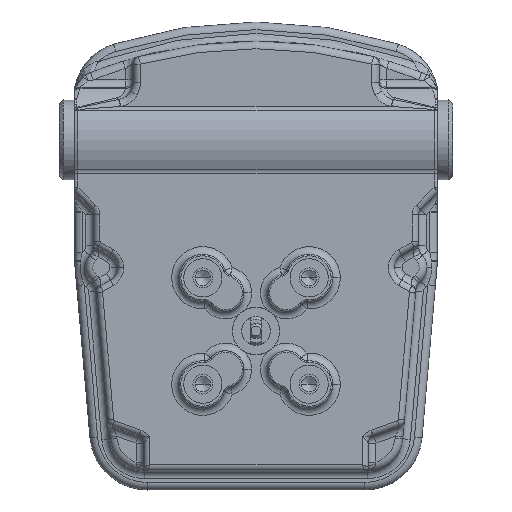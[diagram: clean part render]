
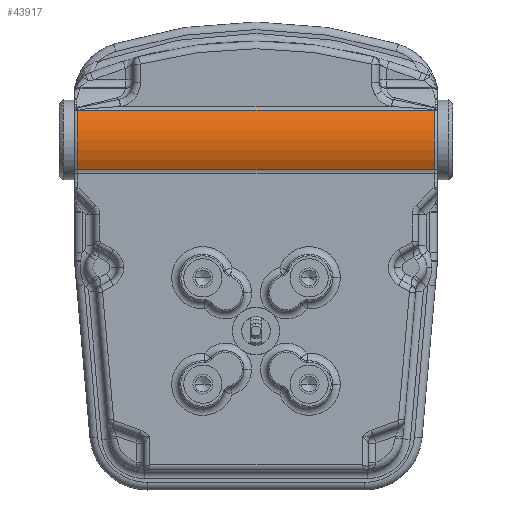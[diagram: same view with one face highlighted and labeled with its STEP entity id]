
A CAD part, front view. The second image highlights one B-rep face of the part: STEP entity #43917.
In plain terms, the highlighted cylindrical face has radius 20.637 mm (diameter 41.275 mm), a partial arc.
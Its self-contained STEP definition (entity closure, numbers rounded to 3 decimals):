
#725 = EDGE_CURVE ( 'NONE', #18810, #30631, #27193, .T. ) ;
#1852 = VERTEX_POINT ( 'NONE', #34471 ) ;
#2064 = AXIS2_PLACEMENT_3D ( 'NONE', #27051, #15968, #19676 ) ;
#8271 = CIRCLE ( 'NONE', #2064, 20.638 ) ;
#9033 = CARTESIAN_POINT ( 'NONE',  ( 82.871, 34.485, 53.573 ) ) ;
#9874 = DIRECTION ( 'NONE',  ( -1., 0., 0. ) ) ;
#12107 = ORIENTED_EDGE ( 'NONE', *, *, #26913, .T. ) ;
#14225 = VERTEX_POINT ( 'NONE', #42472 ) ;
#15968 = DIRECTION ( 'NONE',  ( 1., 0., 0. ) ) ;
#17394 = AXIS2_PLACEMENT_3D ( 'NONE', #27898, #31365, #41463 ) ;
#18810 = VERTEX_POINT ( 'NONE', #27608 ) ;
#19188 = DIRECTION ( 'NONE',  ( -1., 0., 0. ) ) ;
#19676 = DIRECTION ( 'NONE',  ( 0., 0., 1. ) ) ;
#22942 = VECTOR ( 'NONE', #19188, 1000. ) ;
#23467 = DIRECTION ( 'NONE',  ( 1., 0., 0. ) ) ;
#24222 = CARTESIAN_POINT ( 'NONE',  ( 59.182, 34.485, 53.573 ) ) ;
#25933 = EDGE_CURVE ( 'NONE', #30631, #1852, #37082, .T. ) ;
#26700 = ORIENTED_EDGE ( 'NONE', *, *, #29883, .T. ) ;
#26913 = EDGE_CURVE ( 'NONE', #1852, #14225, #27679, .T. ) ;
#27051 = CARTESIAN_POINT ( 'NONE',  ( -59.182, 52.578, 63.5 ) ) ;
#27193 = LINE ( 'NONE', #9033, #39595 ) ;
#27608 = CARTESIAN_POINT ( 'NONE',  ( -59.182, 34.485, 53.573 ) ) ;
#27679 = LINE ( 'NONE', #39657, #22942 ) ;
#27898 = CARTESIAN_POINT ( 'NONE',  ( 82.871, 52.578, 63.5 ) ) ;
#29453 = CYLINDRICAL_SURFACE ( 'NONE', #17394, 20.638 ) ;
#29883 = EDGE_CURVE ( 'NONE', #14225, #18810, #8271, .T. ) ;
#30631 = VERTEX_POINT ( 'NONE', #24222 ) ;
#31294 = ORIENTED_EDGE ( 'NONE', *, *, #725, .T. ) ;
#31365 = DIRECTION ( 'NONE',  ( -1., 0., 0. ) ) ;
#31461 = ORIENTED_EDGE ( 'NONE', *, *, #25933, .T. ) ;
#34471 = CARTESIAN_POINT ( 'NONE',  ( 59.182, 34.485, 73.427 ) ) ;
#35900 = AXIS2_PLACEMENT_3D ( 'NONE', #36906, #9874, #40031 ) ;
#36906 = CARTESIAN_POINT ( 'NONE',  ( 59.182, 52.578, 63.5 ) ) ;
#37082 = CIRCLE ( 'NONE', #35900, 20.638 ) ;
#39595 = VECTOR ( 'NONE', #23467, 1000. ) ;
#39657 = CARTESIAN_POINT ( 'NONE',  ( 82.871, 34.485, 73.427 ) ) ;
#39708 = FACE_OUTER_BOUND ( 'NONE', #44257, .T. ) ;
#40031 = DIRECTION ( 'NONE',  ( 0., 0., -1. ) ) ;
#41463 = DIRECTION ( 'NONE',  ( 0., 0., 1. ) ) ;
#42472 = CARTESIAN_POINT ( 'NONE',  ( -59.182, 34.485, 73.427 ) ) ;
#43917 = ADVANCED_FACE ( 'NONE', ( #39708 ), #29453, .T. ) ;
#44257 = EDGE_LOOP ( 'NONE', ( #12107, #26700, #31294, #31461 ) ) ;
